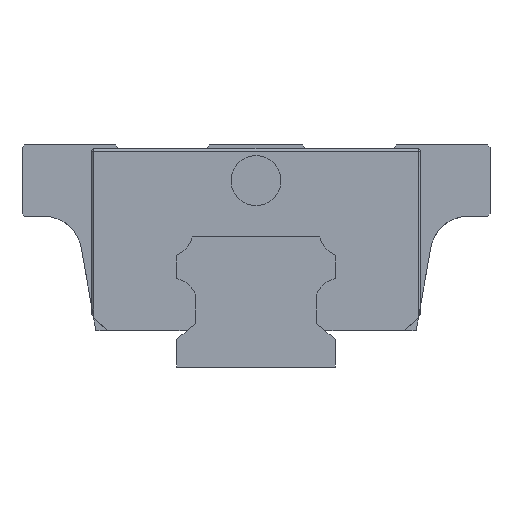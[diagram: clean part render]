
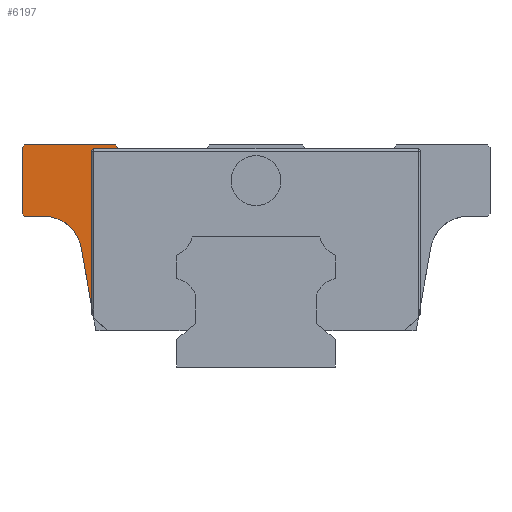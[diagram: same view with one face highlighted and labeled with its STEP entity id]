
A CAD part, left-side view. The second image highlights one B-rep face of the part: STEP entity #6197.
In plain terms, the highlighted planar face has unit normal (-1, 0, 0).
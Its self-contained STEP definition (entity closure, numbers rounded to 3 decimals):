
#45 = CIRCLE ( 'NONE', #2503, 4.75 ) ;
#75 = CARTESIAN_POINT ( 'NONE',  ( -23.35, 29.5, 28. ) ) ;
#115 = ORIENTED_EDGE ( 'NONE', *, *, #5075, .T. ) ;
#179 = CARTESIAN_POINT ( 'NONE',  ( -23.35, 3.032, -7.173 ) ) ;
#287 = AXIS2_PLACEMENT_3D ( 'NONE', #6213, #717, #3500 ) ;
#321 = EDGE_LOOP ( 'NONE', ( #3381, #6852, #587, #347, #115, #1753, #3614, #1671, #3855, #5140, #6398 ) ) ;
#336 = DIRECTION ( 'NONE',  ( 0., 0., 1. ) ) ;
#347 = ORIENTED_EDGE ( 'NONE', *, *, #2359, .T. ) ;
#446 = EDGE_CURVE ( 'NONE', #5106, #1931, #3318, .T. ) ;
#515 = VECTOR ( 'NONE', #5766, 1000. ) ;
#572 = CARTESIAN_POINT ( 'NONE',  ( -23.35, 17.7, 28. ) ) ;
#587 = ORIENTED_EDGE ( 'NONE', *, *, #446, .T. ) ;
#640 = LINE ( 'NONE', #75, #1585 ) ;
#717 = DIRECTION ( 'NONE',  ( -1., 0., 0. ) ) ;
#960 = VERTEX_POINT ( 'NONE', #5989 ) ;
#962 = CARTESIAN_POINT ( 'NONE',  ( -23.35, 21.932, 35.273 ) ) ;
#1159 = VERTEX_POINT ( 'NONE', #4002 ) ;
#1283 = CARTESIAN_POINT ( 'NONE',  ( -23.35, 29.205, 28. ) ) ;
#1410 = VERTEX_POINT ( 'NONE', #6023 ) ;
#1453 = CIRCLE ( 'NONE', #2382, 0.295 ) ;
#1501 = CARTESIAN_POINT ( 'NONE',  ( -23.35, 29.5, 19. ) ) ;
#1544 = DIRECTION ( 'NONE',  ( 0., 0., 1. ) ) ;
#1553 = EDGE_CURVE ( 'NONE', #4999, #1410, #3378, .T. ) ;
#1585 = VECTOR ( 'NONE', #2321, 1000. ) ;
#1606 = DIRECTION ( 'NONE',  ( 0., 0.707, -0.707 ) ) ;
#1671 = ORIENTED_EDGE ( 'NONE', *, *, #4121, .T. ) ;
#1753 = ORIENTED_EDGE ( 'NONE', *, *, #5462, .T. ) ;
#1837 = EDGE_CURVE ( 'NONE', #960, #5106, #4045, .T. ) ;
#1931 = VERTEX_POINT ( 'NONE', #1283 ) ;
#1948 = DIRECTION ( 'NONE',  ( 0., -1., 0. ) ) ;
#2207 = DIRECTION ( 'NONE',  ( 0., 0.643, 0.766 ) ) ;
#2321 = DIRECTION ( 'NONE',  ( 0., 0., -1. ) ) ;
#2359 = EDGE_CURVE ( 'NONE', #1931, #4451, #5947, .T. ) ;
#2382 = AXIS2_PLACEMENT_3D ( 'NONE', #5362, #5335, #336 ) ;
#2457 = LINE ( 'NONE', #2492, #3327 ) ;
#2492 = CARTESIAN_POINT ( 'NONE',  ( -23.35, -20.542, 27.505 ) ) ;
#2503 = AXIS2_PLACEMENT_3D ( 'NONE', #3259, #4318, #1544 ) ;
#2533 = VECTOR ( 'NONE', #2207, 1000. ) ;
#2853 = LINE ( 'NONE', #179, #515 ) ;
#3164 = VERTEX_POINT ( 'NONE', #4823 ) ;
#3259 = CARTESIAN_POINT ( 'NONE',  ( -23.35, 26.714, 14.25 ) ) ;
#3274 = VERTEX_POINT ( 'NONE', #3742 ) ;
#3318 = LINE ( 'NONE', #572, #5543 ) ;
#3327 = VECTOR ( 'NONE', #4215, 1000. ) ;
#3378 = LINE ( 'NONE', #4550, #4746 ) ;
#3381 = ORIENTED_EDGE ( 'NONE', *, *, #3942, .F. ) ;
#3500 = DIRECTION ( 'NONE',  ( 0., 0., 1. ) ) ;
#3614 = ORIENTED_EDGE ( 'NONE', *, *, #5584, .T. ) ;
#3697 = LINE ( 'NONE', #1501, #5401 ) ;
#3742 = CARTESIAN_POINT ( 'NONE',  ( -23.35, 29.5, 19.295 ) ) ;
#3855 = ORIENTED_EDGE ( 'NONE', *, *, #1553, .T. ) ;
#3942 = EDGE_CURVE ( 'NONE', #960, #4810, #2457, .T. ) ;
#3959 = EDGE_CURVE ( 'NONE', #1159, #4810, #1453, .T. ) ;
#4002 = CARTESIAN_POINT ( 'NONE',  ( -23.35, 20.752, 27.21 ) ) ;
#4045 = LINE ( 'NONE', #6893, #2533 ) ;
#4050 = FACE_OUTER_BOUND ( 'NONE', #321, .T. ) ;
#4121 = EDGE_CURVE ( 'NONE', #6907, #4999, #45, .T. ) ;
#4215 = DIRECTION ( 'NONE',  ( 0., 1., 0. ) ) ;
#4216 = CARTESIAN_POINT ( 'NONE',  ( -23.35, 17.7, 28. ) ) ;
#4318 = DIRECTION ( 'NONE',  ( 1., 0., 0. ) ) ;
#4389 = CARTESIAN_POINT ( 'NONE',  ( -23.35, 29.5, 27.705 ) ) ;
#4451 = VERTEX_POINT ( 'NONE', #4389 ) ;
#4550 = CARTESIAN_POINT ( 'NONE',  ( -23.35, 22.728, 19. ) ) ;
#4746 = VECTOR ( 'NONE', #6093, 1000. ) ;
#4810 = VERTEX_POINT ( 'NONE', #6168 ) ;
#4823 = CARTESIAN_POINT ( 'NONE',  ( -23.35, 29.205, 19. ) ) ;
#4999 = VERTEX_POINT ( 'NONE', #5194 ) ;
#5075 = EDGE_CURVE ( 'NONE', #4451, #3274, #640, .T. ) ;
#5106 = VERTEX_POINT ( 'NONE', #4216 ) ;
#5140 = ORIENTED_EDGE ( 'NONE', *, *, #5701, .F. ) ;
#5194 = CARTESIAN_POINT ( 'NONE',  ( -23.35, 22.036, 15.075 ) ) ;
#5291 = VECTOR ( 'NONE', #6656, 1000. ) ;
#5335 = DIRECTION ( 'NONE',  ( 1., 0., 0. ) ) ;
#5362 = CARTESIAN_POINT ( 'NONE',  ( -23.35, 20.457, 27.21 ) ) ;
#5401 = VECTOR ( 'NONE', #1948, 1000. ) ;
#5462 = EDGE_CURVE ( 'NONE', #3274, #3164, #2853, .T. ) ;
#5529 = DIRECTION ( 'NONE',  ( 0., 1., 0. ) ) ;
#5543 = VECTOR ( 'NONE', #5529, 1000. ) ;
#5548 = CARTESIAN_POINT ( 'NONE',  ( -23.35, 26.714, 19. ) ) ;
#5584 = EDGE_CURVE ( 'NONE', #3164, #6907, #3697, .T. ) ;
#5701 = EDGE_CURVE ( 'NONE', #1159, #1410, #6513, .T. ) ;
#5707 = PLANE ( 'NONE',  #287 ) ;
#5766 = DIRECTION ( 'NONE',  ( 0., -0.707, -0.707 ) ) ;
#5947 = LINE ( 'NONE', #962, #6988 ) ;
#5989 = CARTESIAN_POINT ( 'NONE',  ( -23.35, 17.285, 27.505 ) ) ;
#6023 = CARTESIAN_POINT ( 'NONE',  ( -23.35, 20.752, 7.791 ) ) ;
#6093 = DIRECTION ( 'NONE',  ( 0., -0.174, -0.985 ) ) ;
#6168 = CARTESIAN_POINT ( 'NONE',  ( -23.35, 20.457, 27.505 ) ) ;
#6197 = ADVANCED_FACE ( 'NONE', ( #4050 ), #5707, .T. ) ;
#6213 = CARTESIAN_POINT ( 'NONE',  ( -23.35, -8.741, 4.6 ) ) ;
#6398 = ORIENTED_EDGE ( 'NONE', *, *, #3959, .T. ) ;
#6513 = LINE ( 'NONE', #7128, #5291 ) ;
#6656 = DIRECTION ( 'NONE',  ( 0., 0., -1. ) ) ;
#6852 = ORIENTED_EDGE ( 'NONE', *, *, #1837, .T. ) ;
#6893 = CARTESIAN_POINT ( 'NONE',  ( -23.35, 17.228, 27.438 ) ) ;
#6907 = VERTEX_POINT ( 'NONE', #5548 ) ;
#6988 = VECTOR ( 'NONE', #1606, 1000. ) ;
#7128 = CARTESIAN_POINT ( 'NONE',  ( -23.35, 20.752, 26.875 ) ) ;
